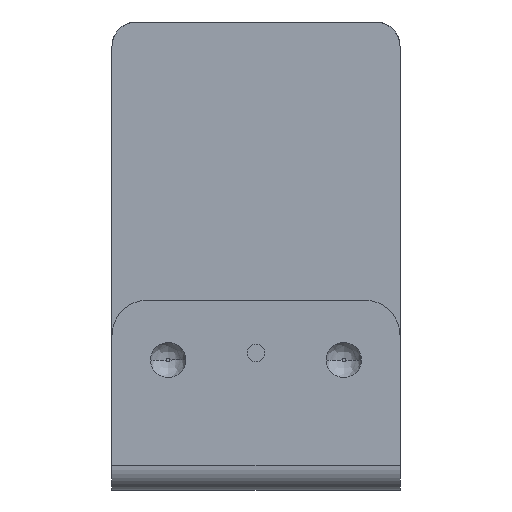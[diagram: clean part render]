
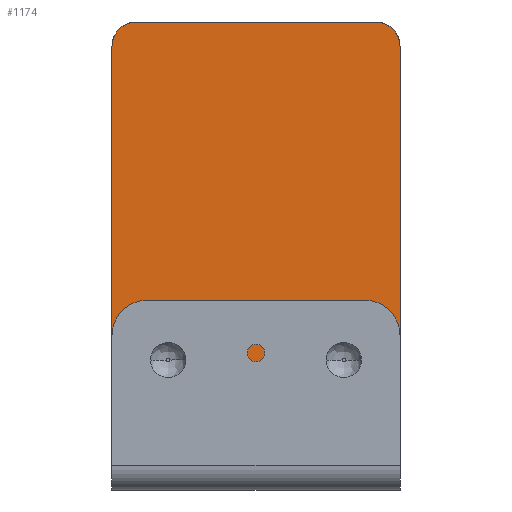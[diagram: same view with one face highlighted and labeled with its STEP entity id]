
A CAD part, front view. The second image highlights one B-rep face of the part: STEP entity #1174.
In plain terms, the highlighted planar face has unit normal (0, -1, 0).
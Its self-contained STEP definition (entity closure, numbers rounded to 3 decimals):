
#257=DIRECTION('',(0.,0.,-1.));
#258=VECTOR('',#257,60.22);
#259=CARTESIAN_POINT('',(20.5,-1.9,-3.48));
#260=LINE('',#259,#258);
#280=CARTESIAN_POINT('',(17.02,-1.9,-3.48));
#281=DIRECTION('',(0.,-1.,0.));
#282=DIRECTION('',(1.,0.,0.));
#283=AXIS2_PLACEMENT_3D('',#280,#281,#282);
#293=CARTESIAN_POINT('',(-17.02,-1.9,-3.48));
#294=DIRECTION('',(0.,-1.,0.));
#295=DIRECTION('',(0.,0.,1.));
#296=AXIS2_PLACEMENT_3D('',#293,#294,#295);
#313=DIRECTION('',(1.,0.,0.));
#314=VECTOR('',#313,34.04);
#315=CARTESIAN_POINT('',(-17.02,-1.9,0.));
#316=LINE('',#315,#314);
#317=DIRECTION('',(1.,0.,0.));
#318=VECTOR('',#317,41.);
#319=CARTESIAN_POINT('',(-20.5,-1.9,-63.7));
#320=LINE('',#319,#318);
#321=DIRECTION('',(0.,0.,-1.));
#322=VECTOR('',#321,60.22);
#323=CARTESIAN_POINT('',(-20.5,-1.9,-3.48));
#324=LINE('',#323,#322);
#694=CARTESIAN_POINT('',(-20.5,-1.9,-63.7));
#696=VERTEX_POINT('',#694);
#710=CARTESIAN_POINT('',(20.5,-1.9,-63.7));
#712=VERTEX_POINT('',#710);
#814=CARTESIAN_POINT('',(-17.02,-1.9,0.));
#816=VERTEX_POINT('',#814);
#818=CARTESIAN_POINT('',(-20.5,-1.9,-3.48));
#819=VERTEX_POINT('',#818);
#823=CARTESIAN_POINT('',(17.02,-1.9,0.));
#825=VERTEX_POINT('',#823);
#827=CARTESIAN_POINT('',(20.5,-1.9,-3.48));
#829=VERTEX_POINT('',#827);
#1159=CARTESIAN_POINT('',(-20.5,-1.9,0.));
#1160=DIRECTION('',(0.,-1.,0.));
#1161=DIRECTION('',(0.,0.,-1.));
#1162=AXIS2_PLACEMENT_3D('',#1159,#1160,#1161);
#1163=PLANE('',#1162);
#1164=ORIENTED_EDGE('',*,*,#1150,.F.);
#1165=ORIENTED_EDGE('',*,*,#1139,.T.);
#1166=ORIENTED_EDGE('',*,*,#1121,.F.);
#1167=ORIENTED_EDGE('',*,*,#1106,.T.);
#1169=ORIENTED_EDGE('',*,*,#1168,.F.);
#1171=ORIENTED_EDGE('',*,*,#1170,.F.);
#1172=EDGE_LOOP('',(#1164,#1165,#1166,#1167,#1169,#1171));
#1173=FACE_OUTER_BOUND('',#1172,.F.);
#1174=ADVANCED_FACE('',(#1173),#1163,.T.);
#284=CIRCLE('',#283,3.48);
#297=CIRCLE('',#296,3.48);
#1106=EDGE_CURVE('',#829,#712,#260,.T.);
#1121=EDGE_CURVE('',#829,#825,#284,.T.);
#1139=EDGE_CURVE('',#816,#825,#316,.T.);
#1150=EDGE_CURVE('',#816,#819,#297,.T.);
#1168=EDGE_CURVE('',#696,#712,#320,.T.);
#1170=EDGE_CURVE('',#819,#696,#324,.T.);
